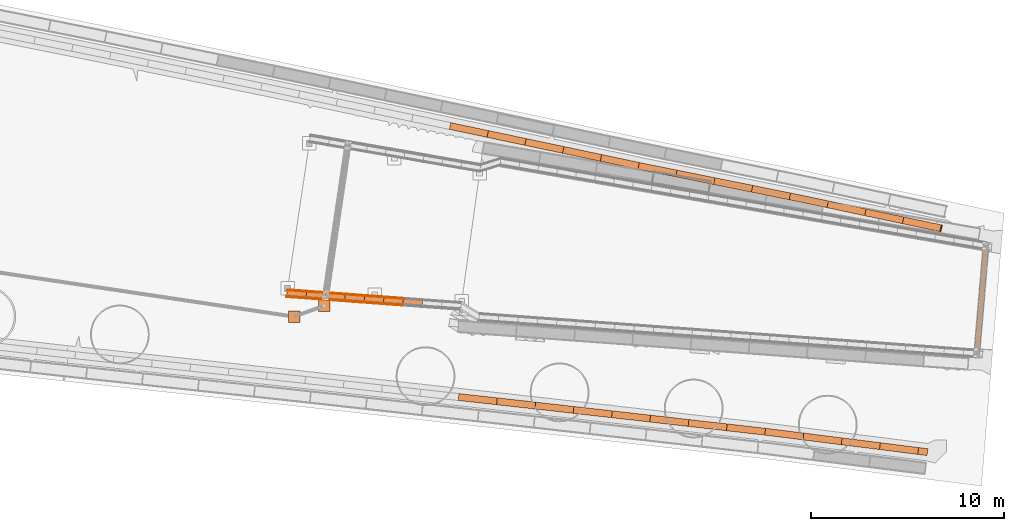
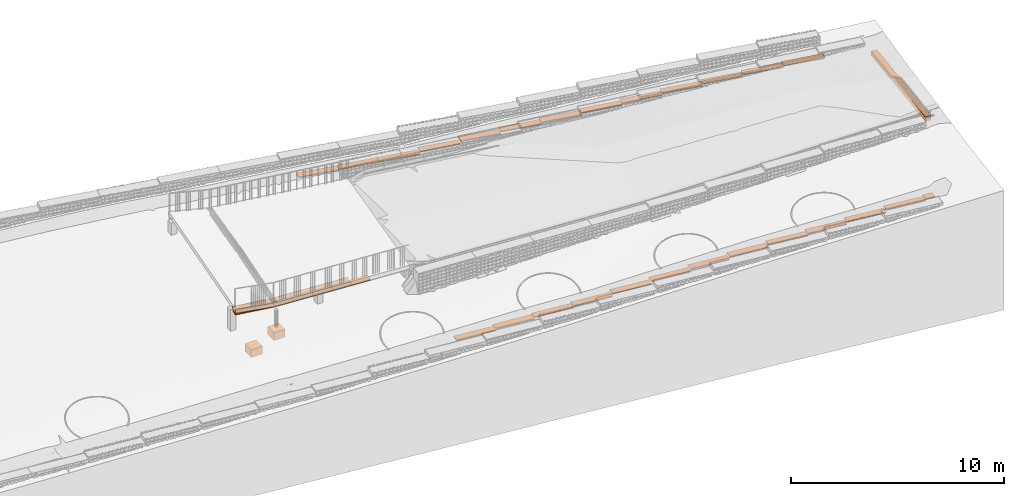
# Not in any storey, part 13 of 45: 49 proxies.
"""IFC4 model written with IfcOpenShell, lengths in metres."""

from ifc_helpers import new_model, si_unit, direction, frame, origin_with_axes, place, context, subcontext, project, spatial, polyline, outline, extrude, polygons, material, element, save


model = new_model("IFC4")

# Units and contexts
model_context = context("Model", 3, precision=1e-05, world=origin_with_axes(), true_north=direction((0.0, 1.0)))
body_context = subcontext(model_context, "Body", "Model", "MODEL_VIEW")
ifc_project = project(units=[si_unit("VOLUMEUNIT", "CUBIC_METRE"), si_unit("LENGTHUNIT", "METRE"), si_unit("AREAUNIT", "SQUARE_METRE")], contexts=[model_context])

# Site
site_placement = place(None, origin_with_axes())
site = spatial("IfcSite", under=ifc_project, at=site_placement, Name="Lares · Rua das Mercês · artigo 4771")

# Proxies
ifc_material_1 = material(Name="Caleiras · betão", Category="concrete")
proxy_1_placement = place(site_placement, frame((0.0, 0.0, 0.0), z_axis=(0.0, 0.0, 1.0), x_axis=(1.0, -1.03767253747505e-17, 0.0)))
element("IfcBuildingElementProxy", 1, at=proxy_1_placement, inside=site, material=ifc_material_1, Name="Acesso · canal lateral", ObjectType="Acesso · canal lateral", PredefinedType="USERDEFINED", context=body_context, shape_type="Tessellation", body=[
    polygons([(46.643112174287, 3.24191374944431, 15.38), (46.7020265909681, 3.63755132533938, 15.38), (47.7060825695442, 3.56375809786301, 15.3), (47.6471683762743, 3.16812048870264, 15.3), (46.643112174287, 3.24191374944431, 15.44), (46.7020265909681, 3.63755132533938, 15.44), (47.7060825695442, 3.56375809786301, 15.36), (47.6471683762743, 3.16812048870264, 15.36)], [[[4, 3, 2, 1]], [[5, 6, 7, 8]], [[1, 2, 6, 5]], [[2, 3, 7, 6]], [[3, 4, 8, 7]], [[4, 1, 5, 8]]]),
])
proxy_2_placement = place(site_placement, frame((0.0, 0.0, 0.0), z_axis=(0.0, 0.0, 1.0), x_axis=(1.0, -1.03767253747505e-17, 0.0)))
element("IfcBuildingElementProxy", 2, at=proxy_2_placement, inside=site, material=ifc_material_1, Name="Acesso · canal lateral", ObjectType="Acesso · canal lateral", PredefinedType="USERDEFINED", context=body_context, shape_type="Tessellation", body=[
    polygons([(46.643112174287, 3.24191374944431, 15.44), (46.6504764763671, 3.29136844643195, 15.44), (47.6545326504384, 3.21757518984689, 15.36), (47.6471683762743, 3.16812048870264, 15.36), (46.643112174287, 3.24191374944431, 15.64), (46.6504764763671, 3.29136844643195, 15.64), (47.6545326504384, 3.21757518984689, 15.56), (47.6471683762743, 3.16812048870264, 15.56)], [[[4, 3, 2, 1]], [[5, 6, 7, 8]], [[1, 2, 6, 5]], [[2, 3, 7, 6]], [[3, 4, 8, 7]], [[4, 1, 5, 8]]]),
])
proxy_3_placement = place(site_placement, frame((0.0, 0.0, 0.0), z_axis=(0.0, 0.0, 1.0), x_axis=(1.0, -1.03767253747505e-17, 0.0)))
element("IfcBuildingElementProxy", 3, at=proxy_3_placement, inside=site, material=ifc_material_1, Name="Acesso · canal lateral", ObjectType="Acesso · canal lateral", PredefinedType="USERDEFINED", context=body_context, shape_type="Tessellation", body=[
    polygons([(46.694662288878, 3.58809662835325, 15.44), (46.7020265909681, 3.63755132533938, 15.44), (47.7060825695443, 3.56375809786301, 15.36), (47.6987182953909, 3.51430339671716, 15.36), (46.694662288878, 3.58809662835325, 15.64), (46.7020265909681, 3.63755132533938, 15.64), (47.7060825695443, 3.56375809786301, 15.56), (47.6987182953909, 3.51430339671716, 15.56)], [[[4, 3, 2, 1]], [[5, 6, 7, 8]], [[1, 2, 6, 5]], [[2, 3, 7, 6]], [[3, 4, 8, 7]], [[4, 1, 5, 8]]]),
])
proxy_4_placement = place(site_placement, frame((0.0, 0.0, 0.0), z_axis=(0.0, 0.0, 1.0), x_axis=(1.0, -1.03767253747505e-17, 0.0)))
element("IfcBuildingElementProxy", 4, at=proxy_4_placement, inside=site, material=ifc_material_1, Name="Acesso · canal lateral", ObjectType="Acesso · canal lateral", PredefinedType="USERDEFINED", context=body_context, shape_type="Tessellation", body=[
    polygons([(47.6473814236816, 3.16808888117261, 15.3), (47.705869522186, 3.56378970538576, 15.3), (48.709919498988, 3.48999708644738, 15.22), (48.6514316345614, 3.09429622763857, 15.22), (47.6473814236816, 3.16808888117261, 15.36), (47.705869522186, 3.56378970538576, 15.36), (48.709919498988, 3.48999708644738, 15.28), (48.6514316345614, 3.09429622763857, 15.28)], [[[4, 3, 2, 1]], [[5, 6, 7, 8]], [[1, 2, 6, 5]], [[2, 3, 7, 6]], [[3, 4, 8, 7]], [[4, 1, 5, 8]]]),
])
proxy_5_placement = place(site_placement, frame((0.0, 0.0, 0.0), z_axis=(0.0, 0.0, 1.0), x_axis=(1.0, -1.03767253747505e-17, 0.0)))
element("IfcBuildingElementProxy", 5, at=proxy_5_placement, inside=site, material=ifc_material_1, Name="Acesso · canal lateral", ObjectType="Acesso · canal lateral", PredefinedType="USERDEFINED", context=body_context, shape_type="Tessellation", body=[
    polygons([(47.6473814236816, 3.16808888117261, 15.36), (47.6546924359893, 3.21755148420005, 15.36), (48.6587426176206, 3.14375883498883, 15.28), (48.6514316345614, 3.09429622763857, 15.28), (47.6473814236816, 3.16808888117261, 15.56), (47.6546924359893, 3.21755148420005, 15.56), (48.6587426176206, 3.14375883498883, 15.48), (48.6514316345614, 3.09429622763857, 15.48)], [[[4, 3, 2, 1]], [[5, 6, 7, 8]], [[1, 2, 6, 5]], [[2, 3, 7, 6]], [[3, 4, 8, 7]], [[4, 1, 5, 8]]]),
])
proxy_6_placement = place(site_placement, frame((0.0, 0.0, 0.0), z_axis=(0.0, 0.0, 1.0), x_axis=(1.0, -1.03767253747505e-17, 0.0)))
element("IfcBuildingElementProxy", 6, at=proxy_6_placement, inside=site, material=ifc_material_1, Name="Acesso · canal lateral", ObjectType="Acesso · canal lateral", PredefinedType="USERDEFINED", context=body_context, shape_type="Tessellation", body=[
    polygons([(47.6985585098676, 3.51432710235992, 15.36), (47.705869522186, 3.56378970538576, 15.36), (48.709919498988, 3.48999708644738, 15.28), (48.7026085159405, 3.44053447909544, 15.28), (47.6985585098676, 3.51432710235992, 15.56), (47.705869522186, 3.56378970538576, 15.56), (48.709919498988, 3.48999708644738, 15.48), (48.7026085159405, 3.44053447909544, 15.48)], [[[4, 3, 2, 1]], [[5, 6, 7, 8]], [[1, 2, 6, 5]], [[2, 3, 7, 6]], [[3, 4, 8, 7]], [[4, 1, 5, 8]]]),
])
proxy_7_placement = place(site_placement, frame((0.0, 0.0, 0.0), z_axis=(0.0, 0.0, 1.0), x_axis=(1.0, -1.03767253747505e-17, 0.0)))
element("IfcBuildingElementProxy", 7, at=proxy_7_placement, inside=site, material=ifc_material_1, Name="Acesso · canal lateral", ObjectType="Acesso · canal lateral", PredefinedType="USERDEFINED", context=body_context, shape_type="Tessellation", body=[
    polygons([(48.6516497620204, 3.09426410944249, 15.22), (48.7097013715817, 3.49002920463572, 15.22), (49.7137451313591, 3.416237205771, 15.221), (49.6556937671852, 3.02047207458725, 15.221), (48.6516497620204, 3.09426410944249, 15.28), (48.7097013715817, 3.49002920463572, 15.28), (49.7137451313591, 3.416237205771, 15.281), (49.6556937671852, 3.02047207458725, 15.281)], [[[4, 3, 2, 1]], [[5, 6, 7, 8]], [[1, 2, 6, 5]], [[2, 3, 7, 6]], [[3, 4, 8, 7]], [[4, 1, 5, 8]]]),
])
proxy_8_placement = place(site_placement, frame((0.0, 0.0, 0.0), z_axis=(0.0, 0.0, 1.0), x_axis=(1.0, -1.03767253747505e-17, 0.0)))
element("IfcBuildingElementProxy", 8, at=proxy_8_placement, inside=site, material=ifc_material_1, Name="Acesso · canal lateral", ObjectType="Acesso · canal lateral", PredefinedType="USERDEFINED", context=body_context, shape_type="Tessellation", body=[
    polygons([(48.6516497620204, 3.09426410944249, 15.28), (48.6589062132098, 3.1437347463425, 15.28), (49.6629501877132, 3.06994271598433, 15.281), (49.6556937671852, 3.02047207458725, 15.281), (48.6516497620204, 3.09426410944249, 15.48), (48.6589062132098, 3.1437347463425, 15.48), (49.6629501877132, 3.06994271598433, 15.481), (49.6556937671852, 3.02047207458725, 15.481)], [[[4, 3, 2, 1]], [[5, 6, 7, 8]], [[1, 2, 6, 5]], [[2, 3, 7, 6]], [[3, 4, 8, 7]], [[4, 1, 5, 8]]]),
])
proxy_9_placement = place(site_placement, frame((0.0, 0.0, 0.0), z_axis=(0.0, 0.0, 1.0), x_axis=(1.0, -1.03767253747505e-17, 0.0)))
element("IfcBuildingElementProxy", 9, at=proxy_9_placement, inside=site, material=ifc_material_1, Name="Acesso · canal lateral", ObjectType="Acesso · canal lateral", PredefinedType="USERDEFINED", context=body_context, shape_type="Tessellation", body=[
    polygons([(48.7024449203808, 3.44055856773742, 15.28), (48.7097013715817, 3.49002920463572, 15.28), (49.7137451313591, 3.416237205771, 15.281), (49.7064887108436, 3.36676656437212, 15.281), (48.7024449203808, 3.44055856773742, 15.48), (48.7097013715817, 3.49002920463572, 15.48), (49.7137451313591, 3.416237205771, 15.481), (49.7064887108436, 3.36676656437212, 15.481)], [[[4, 3, 2, 1]], [[5, 6, 7, 8]], [[1, 2, 6, 5]], [[2, 3, 7, 6]], [[3, 4, 8, 7]], [[4, 1, 5, 8]]]),
])
proxy_10_placement = place(site_placement, frame((0.0, 0.0, 0.0), z_axis=(0.0, 0.0, 1.0), x_axis=(1.0, -1.03767253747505e-17, 0.0)))
element("IfcBuildingElementProxy", 10, at=proxy_10_placement, inside=site, material=ifc_material_1, Name="Acesso · canal lateral", ObjectType="Acesso · canal lateral", PredefinedType="USERDEFINED", context=body_context, shape_type="Tessellation", body=[
    polygons([(49.655917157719, 3.02043943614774, 15.221), (49.7135217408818, 3.41626984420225, 15.221), (50.7175590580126, 3.3424784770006, 15.222), (50.6599547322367, 2.94664803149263, 15.222), (49.655917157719, 3.02043943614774, 15.281), (49.7135217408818, 3.41626984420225, 15.281), (50.7175590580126, 3.3424784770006, 15.282), (50.6599547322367, 2.94664803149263, 15.282)], [[[4, 3, 2, 1]], [[5, 6, 7, 8]], [[1, 2, 6, 5]], [[2, 3, 7, 6]], [[3, 4, 8, 7]], [[4, 1, 5, 8]]]),
])
proxy_11_placement = place(site_placement, frame((0.0, 0.0, 0.0), z_axis=(0.0, 0.0, 1.0), x_axis=(1.0, -1.03767253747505e-17, 0.0)))
element("IfcBuildingElementProxy", 11, at=proxy_11_placement, inside=site, material=ifc_material_1, Name="Acesso · canal lateral", ObjectType="Acesso · canal lateral", PredefinedType="USERDEFINED", context=body_context, shape_type="Tessellation", body=[
    polygons([(49.655917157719, 3.02043943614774, 15.281), (49.6631177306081, 3.06991823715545, 15.281), (50.6671552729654, 2.99612683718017, 15.282), (50.6599547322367, 2.94664803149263, 15.282), (49.655917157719, 3.02043943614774, 15.481), (49.6631177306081, 3.06991823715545, 15.481), (50.6671552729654, 2.99612683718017, 15.482), (50.6599547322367, 2.94664803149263, 15.482)], [[[4, 3, 2, 1]], [[5, 6, 7, 8]], [[1, 2, 6, 5]], [[2, 3, 7, 6]], [[3, 4, 8, 7]], [[4, 1, 5, 8]]]),
])
proxy_12_placement = place(site_placement, frame((0.0, 0.0, 0.0), z_axis=(0.0, 0.0, 1.0), x_axis=(1.0, -1.03767253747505e-17, 0.0)))
element("IfcBuildingElementProxy", 12, at=proxy_12_placement, inside=site, material=ifc_material_1, Name="Acesso · canal lateral", ObjectType="Acesso · canal lateral", PredefinedType="USERDEFINED", context=body_context, shape_type="Tessellation", body=[
    polygons([(49.7063211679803, 3.36679104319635, 15.281), (49.7135217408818, 3.41626984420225, 15.281), (50.7175590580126, 3.3424784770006, 15.282), (50.7103585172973, 3.29299967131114, 15.282), (49.7063211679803, 3.36679104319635, 15.481), (49.7135217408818, 3.41626984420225, 15.481), (50.7175590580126, 3.3424784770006, 15.482), (50.7103585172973, 3.29299967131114, 15.482)], [[[4, 3, 2, 1]], [[5, 6, 7, 8]], [[1, 2, 6, 5]], [[2, 3, 7, 6]], [[3, 4, 8, 7]], [[4, 1, 5, 8]]]),
])
proxy_13_placement = place(site_placement, frame((0.0, 0.0, 0.0), z_axis=(0.0, 0.0, 1.0), x_axis=(1.0, -1.03767253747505e-17, 0.0)))
element("IfcBuildingElementProxy", 13, at=proxy_13_placement, inside=site, material=ifc_material_1, Name="Acesso · canal lateral", ObjectType="Acesso · canal lateral", PredefinedType="USERDEFINED", context=body_context, shape_type="Tessellation", body=[
    polygons([(50.6601835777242, 2.94661486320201, 15.222), (50.7173302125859, 3.34251164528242, 15.222), (51.7213608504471, 3.26872092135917, 15.223), (51.6642144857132, 2.87282410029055, 15.223), (50.6601835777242, 2.94661486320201, 15.282), (50.7173302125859, 3.34251164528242, 15.282), (51.7213608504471, 3.26872092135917, 15.283), (51.6642144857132, 2.87282410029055, 15.283)], [[[4, 3, 2, 1]], [[5, 6, 7, 8]], [[1, 2, 6, 5]], [[2, 3, 7, 6]], [[3, 4, 8, 7]], [[4, 1, 5, 8]]]),
])
proxy_14_placement = place(site_placement, frame((0.0, 0.0, 0.0), z_axis=(0.0, 0.0, 1.0), x_axis=(1.0, -1.03767253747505e-17, 0.0)))
element("IfcBuildingElementProxy", 14, at=proxy_14_placement, inside=site, material=ifc_material_1, Name="Acesso · canal lateral", ObjectType="Acesso · canal lateral", PredefinedType="USERDEFINED", context=body_context, shape_type="Tessellation", body=[
    polygons([(50.6601835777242, 2.94661486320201, 15.282), (50.6673269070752, 2.99610196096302, 15.282), (51.6713577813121, 2.9223112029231, 15.283), (51.6642144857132, 2.87282410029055, 15.283), (50.6601835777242, 2.94661486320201, 15.482), (50.6673269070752, 2.99610196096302, 15.482), (51.6713577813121, 2.9223112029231, 15.483), (51.6642144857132, 2.87282410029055, 15.483)], [[[4, 3, 2, 1]], [[5, 6, 7, 8]], [[1, 2, 6, 5]], [[2, 3, 7, 6]], [[3, 4, 8, 7]], [[4, 1, 5, 8]]]),
])
proxy_15_placement = place(site_placement, frame((0.0, 0.0, 0.0), z_axis=(0.0, 0.0, 1.0), x_axis=(1.0, -1.03767253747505e-17, 0.0)))
element("IfcBuildingElementProxy", 15, at=proxy_15_placement, inside=site, material=ifc_material_1, Name="Acesso · canal lateral", ObjectType="Acesso · canal lateral", PredefinedType="USERDEFINED", context=body_context, shape_type="Tessellation", body=[
    polygons([(50.7101868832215, 3.29302454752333, 15.282), (50.7173302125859, 3.34251164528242, 15.282), (51.7213608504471, 3.26872092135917, 15.283), (51.7142175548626, 3.21923381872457, 15.283), (50.7101868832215, 3.29302454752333, 15.482), (50.7173302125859, 3.34251164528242, 15.482), (51.7213608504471, 3.26872092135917, 15.483), (51.7142175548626, 3.21923381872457, 15.483)], [[[4, 3, 2, 1]], [[5, 6, 7, 8]], [[1, 2, 6, 5]], [[2, 3, 7, 6]], [[3, 4, 8, 7]], [[4, 1, 5, 8]]]),
])
proxy_16_placement = place(site_placement, frame((0.0, 0.0, 0.0), z_axis=(0.0, 0.0, 1.0), x_axis=(1.0, -1.03767253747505e-17, 0.0)))
element("IfcBuildingElementProxy", 16, at=proxy_16_placement, inside=site, material=ifc_material_1, Name="Acesso · canal lateral", ObjectType="Acesso · canal lateral", PredefinedType="USERDEFINED", context=body_context, shape_type="Tessellation", body=[
    polygons([(51.6644489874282, 2.872790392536, 15.223), (51.7211263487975, 3.26875462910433, 15.223), (52.7251500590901, 3.19496456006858, 15.224), (52.6684729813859, 2.79900028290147, 15.224), (51.6644489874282, 2.872790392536, 15.283), (51.7211263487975, 3.26875462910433, 15.283), (52.7251500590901, 3.19496456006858, 15.284), (52.6684729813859, 2.79900028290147, 15.284)], [[[4, 3, 2, 1]], [[5, 6, 7, 8]], [[1, 2, 6, 5]], [[2, 3, 7, 6]], [[3, 4, 8, 7]], [[4, 1, 5, 8]]]),
])
proxy_17_placement = place(site_placement, frame((0.0, 0.0, 0.0), z_axis=(0.0, 0.0, 1.0), x_axis=(1.0, -1.03767253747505e-17, 0.0)))
element("IfcBuildingElementProxy", 17, at=proxy_17_placement, inside=site, material=ifc_material_1, Name="Acesso · canal lateral", ObjectType="Acesso · canal lateral", PredefinedType="USERDEFINED", context=body_context, shape_type="Tessellation", body=[
    polygons([(51.6644489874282, 2.872790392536, 15.283), (51.6715336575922, 2.92228592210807, 15.283), (52.6755576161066, 2.84849581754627, 15.284), (52.6684729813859, 2.79900028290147, 15.284), (51.6644489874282, 2.872790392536, 15.483), (51.6715336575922, 2.92228592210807, 15.483), (52.6755576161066, 2.84849581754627, 15.484), (52.6684729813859, 2.79900028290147, 15.484)], [[[4, 3, 2, 1]], [[5, 6, 7, 8]], [[1, 2, 6, 5]], [[2, 3, 7, 6]], [[3, 4, 8, 7]], [[4, 1, 5, 8]]]),
])
proxy_18_placement = place(site_placement, frame((0.0, 0.0, 0.0), z_axis=(0.0, 0.0, 1.0), x_axis=(1.0, -1.03767253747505e-17, 0.0)))
element("IfcBuildingElementProxy", 18, at=proxy_18_placement, inside=site, material=ifc_material_1, Name="Acesso · canal lateral", ObjectType="Acesso · canal lateral", PredefinedType="USERDEFINED", context=body_context, shape_type="Tessellation", body=[
    polygons([(51.7140416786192, 3.21925909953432, 15.283), (51.7211263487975, 3.26875462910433, 15.283), (52.7251500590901, 3.19496456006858, 15.284), (52.7180654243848, 3.1454690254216, 15.284), (51.7140416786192, 3.21925909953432, 15.483), (51.7211263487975, 3.26875462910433, 15.483), (52.7251500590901, 3.19496456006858, 15.484), (52.7180654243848, 3.1454690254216, 15.484)], [[[4, 3, 2, 1]], [[5, 6, 7, 8]], [[1, 2, 6, 5]], [[2, 3, 7, 6]], [[3, 4, 8, 7]], [[4, 1, 5, 8]]]),
])
proxy_19_placement = place(site_placement, frame((0.0, 0.0, 0.0), z_axis=(0.0, 0.0, 1.0), x_axis=(1.0, -1.03767253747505e-17, 0.0)))
element("IfcBuildingElementProxy", 19, at=proxy_19_placement, inside=site, material=ifc_material_1, Name="Acesso · canal lateral", ObjectType="Acesso · canal lateral", PredefinedType="USERDEFINED", context=body_context, shape_type="Tessellation", body=[
    polygons([(52.6687133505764, 2.79896602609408, 15.224), (52.7249096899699, 3.19499881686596, 15.224), (53.7289262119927, 3.12120941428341, 15.225), (53.6727301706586, 2.72517658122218, 15.225), (52.6687133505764, 2.79896602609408, 15.284), (52.7249096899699, 3.19499881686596, 15.284), (53.7289262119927, 3.12120941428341, 15.285), (53.6727301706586, 2.72517658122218, 15.285)], [[[4, 3, 2, 1]], [[5, 6, 7, 8]], [[1, 2, 6, 5]], [[2, 3, 7, 6]], [[3, 4, 8, 7]], [[4, 1, 5, 8]]]),
])
proxy_20_placement = place(site_placement, frame((0.0, 0.0, 15.899875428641), z_axis=(0.0, 0.0, 1.0), x_axis=(1.0, -1.03767253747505e-17, 0.0)))
element("IfcBuildingElementProxy", 20, at=proxy_20_placement, inside=site, material=ifc_material_1, Name="Interceção · caleira rua", ObjectType="Interceção · caleira rua", PredefinedType="USERDEFINED", context=body_context, shape_type="SweptSolid", body=[
    extrude(outline(polyline([(82.7967562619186, 6.08892167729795), (83.0956811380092, 6.06354612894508), (82.5899858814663, 0.106437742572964), (82.2910610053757, 0.13181329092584), (82.7967562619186, 6.08892167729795)])), origin_with_axes(), (0.0, 0.0, 1.0), 0.25),
])
proxy_21_placement = place(site_placement, frame((0.0, 0.0, 13.7852919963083), z_axis=(0.0, 0.0, 1.0), x_axis=(1.0, -1.03767253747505e-17, 0.0)))
element("IfcBuildingElementProxy", 21, at=proxy_21_placement, inside=site, material=ifc_material_1, Name="Acesso · caixa de retenção de sedimentos", ObjectType="Acesso · caixa de retenção de sedimentos", PredefinedType="USERDEFINED", context=body_context, shape_type="SweptSolid", body=[
    extrude(outline(polyline([(48.9078367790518, 2.49748059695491), (48.9078367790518, 3.09748059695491), (48.3078367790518, 3.09748059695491), (48.3078367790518, 2.49748059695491), (48.9078367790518, 2.49748059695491)])), origin_with_axes(), (0.0, 0.0, 1.0), 0.45),
])
proxy_22_placement = place(site_placement, frame((0.0, 0.0, 13.698202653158), z_axis=(0.0, 0.0, 1.0), x_axis=(1.0, -1.03767253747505e-17, 0.0)))
element("IfcBuildingElementProxy", 22, at=proxy_22_placement, inside=site, material=ifc_material_1, Name="Acesso · caixa de retenção de sedimentos", ObjectType="Acesso · caixa de retenção de sedimentos", PredefinedType="USERDEFINED", context=body_context, shape_type="SweptSolid", body=[
    extrude(outline(polyline([(47.3480253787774, 1.93095927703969), (47.3480253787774, 2.53095927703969), (46.7480253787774, 2.53095927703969), (46.7480253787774, 1.93095927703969), (47.3480253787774, 1.93095927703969)])), origin_with_axes(), (0.0, 0.0, 1.0), 0.45),
])
ifc_material_2 = material(Name="Brita drenante", Category="stone")
proxy_23_placement = place(site_placement, frame((0.0, 0.0, 15.0027187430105), z_axis=(0.0, 0.0, 1.0), x_axis=(1.0, -1.03767253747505e-17, 0.0)))
element("IfcBuildingElementProxy", 23, at=proxy_23_placement, inside=site, material=ifc_material_2, Name="Limite north · vala de interceção", ObjectType="Limite north · vala de interceção", PredefinedType="USERDEFINED", context=body_context, shape_type="SweptSolid", body=[
    extrude(outline(polyline([(56.2661596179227, 12.0634059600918), (56.2664302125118, 12.0633489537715), (57.1303956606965, 11.8806436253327), (57.0559126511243, 11.5284330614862), (56.1920824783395, 11.7111097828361), (55.0991041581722, 11.9404914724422), (55.1730459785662, 12.2928160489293), (56.2661596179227, 12.0634059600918)])), origin_with_axes(), (0.0, 0.0, 1.0), 0.06),
])
proxy_24_placement = place(site_placement, frame((0.0, 0.0, 15.0307989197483), z_axis=(0.0, 0.0, 1.0), x_axis=(1.0, -1.03767253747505e-17, 0.0)))
element("IfcBuildingElementProxy", 24, at=proxy_24_placement, inside=site, material=ifc_material_2, Name="Limite north · vala de interceção", ObjectType="Limite north · vala de interceção", PredefinedType="USERDEFINED", context=body_context, shape_type="SweptSolid", body=[
    extrude(outline(polyline([(59.0871210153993, 11.4668491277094), (59.0126380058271, 11.1146385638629), (57.0559126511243, 11.5284330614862), (57.1303956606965, 11.8806436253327), (59.0871210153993, 11.4668491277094)])), origin_with_axes(), (0.0, 0.0, 1.0), 0.06),
])
proxy_25_placement = place(site_placement, frame((0.0, 0.0, 15.0374429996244), z_axis=(0.0, 0.0, 1.0), x_axis=(1.0, -1.03767253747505e-17, 0.0)))
element("IfcBuildingElementProxy", 25, at=proxy_25_placement, inside=site, material=ifc_material_2, Name="Limite north · vala de interceção", ObjectType="Limite north · vala de interceção", PredefinedType="USERDEFINED", context=body_context, shape_type="SweptSolid", body=[
    extrude(outline(polyline([(61.043846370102, 11.0530546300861), (60.9693633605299, 10.7008440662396), (59.0126380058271, 11.1146385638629), (59.0871210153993, 11.4668491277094), (61.043846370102, 11.0530546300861)])), origin_with_axes(), (0.0, 0.0, 1.0), 0.06),
])
proxy_26_placement = place(site_placement, frame((0.0, 0.0, 15.1813322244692), z_axis=(0.0, 0.0, 1.0), x_axis=(1.0, -1.03767253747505e-17, 0.0)))
element("IfcBuildingElementProxy", 26, at=proxy_26_placement, inside=site, material=ifc_material_2, Name="Limite north · vala de interceção", ObjectType="Limite north · vala de interceção", PredefinedType="USERDEFINED", context=body_context, shape_type="SweptSolid", body=[
    extrude(outline(polyline([(63.0005717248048, 10.6392601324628), (62.9260887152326, 10.2870495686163), (60.9693633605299, 10.7008440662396), (61.043846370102, 11.0530546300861), (63.0005717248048, 10.6392601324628)])), origin_with_axes(), (0.0, 0.0, 1.0), 0.06),
])
proxy_27_placement = place(site_placement, frame((0.0, 0.0, 15.346342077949), z_axis=(0.0, 0.0, 1.0), x_axis=(1.0, -1.03767253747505e-17, 0.0)))
element("IfcBuildingElementProxy", 27, at=proxy_27_placement, inside=site, material=ifc_material_2, Name="Limite north · vala de interceção", ObjectType="Limite north · vala de interceção", PredefinedType="USERDEFINED", context=body_context, shape_type="SweptSolid", body=[
    extrude(outline(polyline([(64.9572970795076, 10.2254656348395), (64.8828140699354, 9.873255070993), (62.9260887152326, 10.2870495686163), (63.0005717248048, 10.6392601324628), (64.9572970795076, 10.2254656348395)])), origin_with_axes(), (0.0, 0.0, 1.0), 0.06),
])
proxy_28_placement = place(site_placement, frame((0.0, 0.0, 15.4582202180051), z_axis=(0.0, 0.0, 1.0), x_axis=(1.0, -1.03767253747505e-17, 0.0)))
element("IfcBuildingElementProxy", 28, at=proxy_28_placement, inside=site, material=ifc_material_2, Name="Limite north · vala de interceção", ObjectType="Limite north · vala de interceção", PredefinedType="USERDEFINED", context=body_context, shape_type="SweptSolid", body=[
    extrude(outline(polyline([(64.9611671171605, 10.2246472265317), (66.9161548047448, 9.83033794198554), (66.8449782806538, 9.47744432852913), (64.8891631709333, 9.87192049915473), (64.8875099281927, 9.87226202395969), (64.8828140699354, 9.873255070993), (64.9572970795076, 10.2254656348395), (64.9611671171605, 10.2246472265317)])), origin_with_axes(), (0.0, 0.0, 1.0), 0.06),
])
proxy_29_placement = place(site_placement, frame((0.0, 0.0, 15.5363302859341), z_axis=(0.0, 0.0, 1.0), x_axis=(1.0, -1.03767253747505e-17, 0.0)))
element("IfcBuildingElementProxy", 29, at=proxy_29_placement, inside=site, material=ifc_material_2, Name="Limite north · vala de interceção", ObjectType="Limite north · vala de interceção", PredefinedType="USERDEFINED", context=body_context, shape_type="SweptSolid", body=[
    extrude(outline(polyline([(68.8766748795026, 9.43491280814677), (68.8054983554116, 9.08201919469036), (66.8449782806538, 9.47744432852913), (66.9161548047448, 9.83033794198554), (68.8766748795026, 9.43491280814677)])), origin_with_axes(), (0.0, 0.0, 1.0), 0.06),
])
proxy_30_placement = place(site_placement, frame((0.0, 0.0, 15.641191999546), z_axis=(0.0, 0.0, 1.0), x_axis=(1.0, -1.03767253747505e-17, 0.0)))
element("IfcBuildingElementProxy", 30, at=proxy_30_placement, inside=site, material=ifc_material_2, Name="Limite north · vala de interceção", ObjectType="Limite north · vala de interceção", PredefinedType="USERDEFINED", context=body_context, shape_type="SweptSolid", body=[
    extrude(outline(polyline([(70.8371949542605, 9.039487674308), (70.7660184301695, 8.68659406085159), (68.8054983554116, 9.08201919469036), (68.8766748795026, 9.43491280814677), (70.8371949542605, 9.039487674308)])), origin_with_axes(), (0.0, 0.0, 1.0), 0.06),
])
proxy_31_placement = place(site_placement, frame((0.0, 0.0, 15.7528472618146), z_axis=(0.0, 0.0, 1.0), x_axis=(1.0, -1.03767253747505e-17, 0.0)))
element("IfcBuildingElementProxy", 31, at=proxy_31_placement, inside=site, material=ifc_material_2, Name="Limite north · vala de interceção", ObjectType="Limite north · vala de interceção", PredefinedType="USERDEFINED", context=body_context, shape_type="SweptSolid", body=[
    extrude(outline(polyline([(72.7977150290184, 8.64406254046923), (72.7265385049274, 8.29116892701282), (70.7660184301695, 8.68659406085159), (70.8371949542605, 9.039487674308), (72.7977150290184, 8.64406254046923)])), origin_with_axes(), (0.0, 0.0, 1.0), 0.06),
])
proxy_32_placement = place(site_placement, frame((0.0, 0.0, 15.8750952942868), z_axis=(0.0, 0.0, 1.0), x_axis=(1.0, -1.03767253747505e-17, 0.0)))
element("IfcBuildingElementProxy", 32, at=proxy_32_placement, inside=site, material=ifc_material_2, Name="Limite north · vala de interceção", ObjectType="Limite north · vala de interceção", PredefinedType="USERDEFINED", context=body_context, shape_type="SweptSolid", body=[
    extrude(outline(polyline([(73.2831791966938, 8.54614733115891), (73.284996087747, 8.54577111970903), (74.7569069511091, 8.23307239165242), (74.6820966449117, 7.88093120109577), (73.2110932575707, 8.19343714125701), (72.7265385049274, 8.29116892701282), (72.7977150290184, 8.64406254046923), (73.2831791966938, 8.54614733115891)])), origin_with_axes(), (0.0, 0.0, 1.0), 0.06),
])
proxy_33_placement = place(site_placement, frame((0.0, 0.0, 15.9753502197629), z_axis=(0.0, 0.0, 1.0), x_axis=(1.0, -1.03767253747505e-17, 0.0)))
element("IfcBuildingElementProxy", 33, at=proxy_33_placement, inside=site, material=ifc_material_2, Name="Limite north · vala de interceção", ObjectType="Limite north · vala de interceção", PredefinedType="USERDEFINED", context=body_context, shape_type="SweptSolid", body=[
    extrude(outline(polyline([(76.7132468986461, 7.81745957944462), (76.6384365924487, 7.46531838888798), (74.6820966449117, 7.88093120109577), (74.7569069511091, 8.23307239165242), (76.7132468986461, 7.81745957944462)])), origin_with_axes(), (0.0, 0.0, 1.0), 0.06),
])
proxy_34_placement = place(site_placement, frame((0.0, 0.0, 16.0728176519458), z_axis=(0.0, 0.0, 1.0), x_axis=(1.0, -1.03767253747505e-17, 0.0)))
element("IfcBuildingElementProxy", 34, at=proxy_34_placement, inside=site, material=ifc_material_2, Name="Limite north · vala de interceção", ObjectType="Limite north · vala de interceção", PredefinedType="USERDEFINED", context=body_context, shape_type="SweptSolid", body=[
    extrude(outline(polyline([(78.669586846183, 7.40184676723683), (78.5947765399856, 7.04970557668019), (76.6384365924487, 7.46531838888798), (76.7132468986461, 7.81745957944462), (78.669586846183, 7.40184676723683)])), origin_with_axes(), (0.0, 0.0, 1.0), 0.06),
])
proxy_35_placement = place(site_placement, frame((0.0, 0.0, 16.1534996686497), z_axis=(0.0, 0.0, 1.0), x_axis=(1.0, -1.03767253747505e-17, 0.0)))
element("IfcBuildingElementProxy", 35, at=proxy_35_placement, inside=site, material=ifc_material_2, Name="Limite north · vala de interceção", ObjectType="Limite north · vala de interceção", PredefinedType="USERDEFINED", context=body_context, shape_type="SweptSolid", body=[
    extrude(outline(polyline([(80.6259267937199, 6.98623395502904), (80.5511164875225, 6.63409276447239), (78.5947765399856, 7.04970557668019), (78.669586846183, 7.40184676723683), (80.6259267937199, 6.98623395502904)])), origin_with_axes(), (0.0, 0.0, 1.0), 0.06),
])
proxy_36_placement = place(site_placement, frame((0.0, 0.0, 16.1947036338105), z_axis=(0.0, 0.0, 1.0), x_axis=(1.0, -1.03767253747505e-17, 0.0)))
element("IfcBuildingElementProxy", 36, at=proxy_36_placement, inside=site, material=ifc_material_2, Name="Limite north · vala de interceção", ObjectType="Limite north · vala de interceção", PredefinedType="USERDEFINED", context=body_context, shape_type="SweptSolid", body=[
    extrude(outline(polyline([(80.6677759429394, 6.9773433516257), (80.592965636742, 6.62520216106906), (80.5511164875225, 6.63409276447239), (80.6259267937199, 6.98623395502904), (80.6677759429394, 6.9773433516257)])), origin_with_axes(), (0.0, 0.0, 1.0), 0.06),
])
proxy_37_placement = place(site_placement, frame((0.0, 0.0, 14.0280133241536), z_axis=(0.0, 0.0, 1.0), x_axis=(1.0, -1.03767253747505e-17, 0.0)))
element("IfcBuildingElementProxy", 37, at=proxy_37_placement, inside=site, material=ifc_material_2, Name="Limite south · vala de interceção", ObjectType="Limite south · vala de interceção", PredefinedType="USERDEFINED", context=body_context, shape_type="SweptSolid", body=[
    extrude(outline(polyline([(57.586802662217, -1.98099265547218), (57.5470734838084, -2.33879370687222), (55.5592898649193, -2.11807604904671), (55.5990190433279, -1.76027499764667), (57.586802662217, -1.98099265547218)])), origin_with_axes(), (0.0, 0.0, 1.0), 0.06),
])
proxy_38_placement = place(site_placement, frame((0.0, 0.0, 14.1395809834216), z_axis=(0.0, 0.0, 1.0), x_axis=(1.0, -1.03767253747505e-17, 0.0)))
element("IfcBuildingElementProxy", 38, at=proxy_38_placement, inside=site, material=ifc_material_2, Name="Limite south · vala de interceção", ObjectType="Limite south · vala de interceção", PredefinedType="USERDEFINED", context=body_context, shape_type="SweptSolid", body=[
    extrude(outline(polyline([(59.4488968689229, -2.187754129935), (59.4493673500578, -2.18780699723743), (59.5750196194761, -2.20209372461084), (59.5343494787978, -2.55978904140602), (59.4089324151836, -2.54552905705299), (57.5470734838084, -2.33879370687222), (57.586802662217, -1.98099265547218), (59.4488968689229, -2.187754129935)])), origin_with_axes(), (0.0, 0.0, 1.0), 0.06),
])
proxy_39_placement = place(site_placement, frame((0.0, 0.0, 14.2170636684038), z_axis=(0.0, 0.0, 1.0), x_axis=(1.0, -1.03767253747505e-17, 0.0)))
element("IfcBuildingElementProxy", 39, at=proxy_39_placement, inside=site, material=ifc_material_2, Name="Limite south · vala de interceção", ObjectType="Limite south · vala de interceção", PredefinedType="USERDEFINED", context=body_context, shape_type="SweptSolid", body=[
    extrude(outline(polyline([(61.5622158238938, -2.42803895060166), (61.5215456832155, -2.78573426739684), (59.5343494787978, -2.55978904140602), (59.5750196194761, -2.20209372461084), (61.5622158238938, -2.42803895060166)])), origin_with_axes(), (0.0, 0.0, 1.0), 0.06),
])
proxy_40_placement = place(site_placement, frame((0.0, 0.0, 14.3081618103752), z_axis=(0.0, 0.0, 1.0), x_axis=(1.0, -1.03767253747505e-17, 0.0)))
element("IfcBuildingElementProxy", 40, at=proxy_40_placement, inside=site, material=ifc_material_2, Name="Limite south · vala de interceção", ObjectType="Limite south · vala de interceção", PredefinedType="USERDEFINED", context=body_context, shape_type="SweptSolid", body=[
    extrude(outline(polyline([(63.5494120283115, -2.65398417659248), (63.5087418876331, -3.01167949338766), (61.5215456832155, -2.78573426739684), (61.5622158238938, -2.42803895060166), (63.5494120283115, -2.65398417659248)])), origin_with_axes(), (0.0, 0.0, 1.0), 0.06),
])
proxy_41_placement = place(site_placement, frame((0.0, 0.0, 14.4566455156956), z_axis=(0.0, 0.0, 1.0), x_axis=(1.0, -1.03767253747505e-17, 0.0)))
element("IfcBuildingElementProxy", 41, at=proxy_41_placement, inside=site, material=ifc_material_2, Name="Limite south · vala de interceção", ObjectType="Limite south · vala de interceção", PredefinedType="USERDEFINED", context=body_context, shape_type="SweptSolid", body=[
    extrude(outline(polyline([(65.5366082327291, -2.8799294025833), (65.4959380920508, -3.23762471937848), (63.5087418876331, -3.01167949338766), (63.5494120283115, -2.65398417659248), (65.5366082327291, -2.8799294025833)])), origin_with_axes(), (0.0, 0.0, 1.0), 0.06),
])
proxy_42_placement = place(site_placement, frame((0.0, 0.0, 14.605129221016), z_axis=(0.0, 0.0, 1.0), x_axis=(1.0, -1.03767253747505e-17, 0.0)))
element("IfcBuildingElementProxy", 42, at=proxy_42_placement, inside=site, material=ifc_material_2, Name="Limite south · vala de interceção", ObjectType="Limite south · vala de interceção", PredefinedType="USERDEFINED", context=body_context, shape_type="SweptSolid", body=[
    extrude(outline(polyline([(67.5238044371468, -3.10587462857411), (67.4831342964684, -3.46356994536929), (65.4959380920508, -3.23762471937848), (65.5366082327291, -2.8799294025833), (67.5238044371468, -3.10587462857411)])), origin_with_axes(), (0.0, 0.0, 1.0), 0.06),
])
proxy_43_placement = place(site_placement, frame((0.0, 0.0, 14.7536129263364), z_axis=(0.0, 0.0, 1.0), x_axis=(1.0, -1.03767253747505e-17, 0.0)))
element("IfcBuildingElementProxy", 43, at=proxy_43_placement, inside=site, material=ifc_material_2, Name="Limite south · vala de interceção", ObjectType="Limite south · vala de interceção", PredefinedType="USERDEFINED", context=body_context, shape_type="SweptSolid", body=[
    extrude(outline(polyline([(69.5110006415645, -3.33181985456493), (69.4703305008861, -3.68951517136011), (67.4831342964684, -3.46356994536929), (67.5238044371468, -3.10587462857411), (69.5110006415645, -3.33181985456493)])), origin_with_axes(), (0.0, 0.0, 1.0), 0.06),
])
proxy_44_placement = place(site_placement, frame((0.0, 0.0, 14.9020966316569), z_axis=(0.0, 0.0, 1.0), x_axis=(1.0, -1.03767253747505e-17, 0.0)))
element("IfcBuildingElementProxy", 44, at=proxy_44_placement, inside=site, material=ifc_material_2, Name="Limite south · vala de interceção", ObjectType="Limite south · vala de interceção", PredefinedType="USERDEFINED", context=body_context, shape_type="SweptSolid", body=[
    extrude(outline(polyline([(71.4699829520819, -3.55455714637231), (71.4721121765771, -3.55481209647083), (71.5002858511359, -3.55835592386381), (71.4553572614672, -3.91554134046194), (71.4282474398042, -3.91213132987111), (69.4703305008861, -3.68951517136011), (69.5110006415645, -3.33181985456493), (71.4699829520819, -3.55455714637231)])), origin_with_axes(), (0.0, 0.0, 1.0), 0.06),
])
proxy_45_placement = place(site_placement, frame((0.0, 0.0, 15.0140327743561), z_axis=(0.0, 0.0, 1.0), x_axis=(1.0, -1.03767253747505e-17, 0.0)))
element("IfcBuildingElementProxy", 45, at=proxy_45_placement, inside=site, material=ifc_material_2, Name="Limite south · vala de interceção", ObjectType="Limite south · vala de interceção", PredefinedType="USERDEFINED", context=body_context, shape_type="SweptSolid", body=[
    extrude(outline(polyline([(73.4846492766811, -3.80795919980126), (73.4397206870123, -4.16514461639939), (71.4553572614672, -3.91554134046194), (71.5002858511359, -3.55835592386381), (73.4846492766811, -3.80795919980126)])), origin_with_axes(), (0.0, 0.0, 1.0), 0.06),
])
proxy_46_placement = place(site_placement, frame((0.0, 0.0, 15.1274253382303), z_axis=(0.0, 0.0, 1.0), x_axis=(1.0, -1.03767253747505e-17, 0.0)))
element("IfcBuildingElementProxy", 46, at=proxy_46_placement, inside=site, material=ifc_material_2, Name="Limite south · vala de interceção", ObjectType="Limite south · vala de interceção", PredefinedType="USERDEFINED", context=body_context, shape_type="SweptSolid", body=[
    extrude(outline(polyline([(75.4690127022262, -4.05756247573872), (75.4240841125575, -4.41474789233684), (73.4397206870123, -4.16514461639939), (73.4846492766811, -3.80795919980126), (75.4690127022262, -4.05756247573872)])), origin_with_axes(), (0.0, 0.0, 1.0), 0.06),
])
proxy_47_placement = place(site_placement, frame((0.0, 0.0, 15.2554262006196), z_axis=(0.0, 0.0, 1.0), x_axis=(1.0, -1.03767253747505e-17, 0.0)))
element("IfcBuildingElementProxy", 47, at=proxy_47_placement, inside=site, material=ifc_material_2, Name="Limite south · vala de interceção", ObjectType="Limite south · vala de interceção", PredefinedType="USERDEFINED", context=body_context, shape_type="SweptSolid", body=[
    extrude(outline(polyline([(77.4533761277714, -4.30716575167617), (77.4084475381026, -4.6643511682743), (75.4240841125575, -4.41474789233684), (75.4690127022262, -4.05756247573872), (77.4533761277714, -4.30716575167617)])), origin_with_axes(), (0.0, 0.0, 1.0), 0.06),
])
proxy_48_placement = place(site_placement, frame((0.0, 0.0, 15.3940637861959), z_axis=(0.0, 0.0, 1.0), x_axis=(1.0, -1.03767253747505e-17, 0.0)))
element("IfcBuildingElementProxy", 48, at=proxy_48_placement, inside=site, material=ifc_material_2, Name="Limite south · vala de interceção", ObjectType="Limite south · vala de interceção", PredefinedType="USERDEFINED", context=body_context, shape_type="SweptSolid", body=[
    extrude(outline(polyline([(79.4377395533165, -4.55676902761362), (79.3928109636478, -4.91395444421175), (77.4084475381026, -4.6643511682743), (77.4533761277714, -4.30716575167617), (79.4377395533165, -4.55676902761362)])), origin_with_axes(), (0.0, 0.0, 1.0), 0.06),
])
proxy_49_placement = place(site_placement, frame((0.0, 0.0, 15.4802340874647), z_axis=(0.0, 0.0, 1.0), x_axis=(1.0, -1.03767253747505e-17, 0.0)))
element("IfcBuildingElementProxy", 49, at=proxy_49_placement, inside=site, material=ifc_material_2, Name="Limite south · vala de interceção", ObjectType="Limite south · vala de interceção", PredefinedType="USERDEFINED", context=body_context, shape_type="SweptSolid", body=[
    extrude(outline(polyline([(79.9201414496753, -4.61744797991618), (79.8752128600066, -4.9746333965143), (79.3928109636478, -4.91395444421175), (79.4377395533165, -4.55676902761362), (79.9201414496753, -4.61744797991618)])), origin_with_axes(), (0.0, 0.0, 1.0), 0.06),
])

save(model, "model.ifc")
